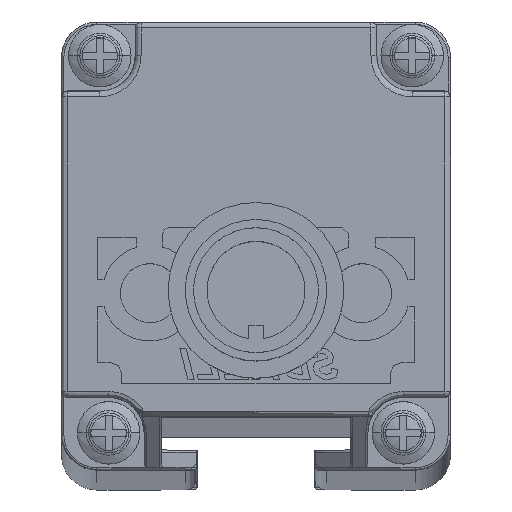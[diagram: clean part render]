
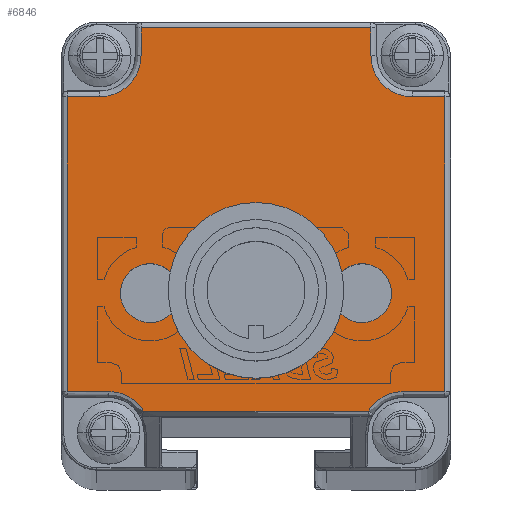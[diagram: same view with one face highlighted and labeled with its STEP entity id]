
A CAD part, top view. The second image highlights one B-rep face of the part: STEP entity #6846.
In plain terms, the highlighted planar face has unit normal (0, 0, 1).
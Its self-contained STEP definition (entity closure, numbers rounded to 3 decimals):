
#2781=CARTESIAN_POINT('',(0.65,-8.054,
845.276));
#2782=DIRECTION('',(0.,0.,1.));
#2783=DIRECTION('',(1.,0.,0.));
#2784=AXIS2_PLACEMENT_3D('',#2781,#2782,#2783);
#2786=CARTESIAN_POINT('',(0.65,-8.054,
845.276));
#2787=DIRECTION('',(0.,0.,1.));
#2788=DIRECTION('',(-1.,0.,0.));
#2789=AXIS2_PLACEMENT_3D('',#2786,#2787,#2788);
#2791=CARTESIAN_POINT('',(9.65,-8.055,845.276));
#2792=DIRECTION('',(0.,0.,1.));
#2793=DIRECTION('',(1.,-0.007,0.));
#2794=AXIS2_PLACEMENT_3D('',#2791,#2792,#2793);
#2796=CARTESIAN_POINT('',(9.65,-8.055,845.276));
#2797=DIRECTION('',(0.,0.,1.));
#2798=DIRECTION('',(-1.,0.007,0.));
#2799=AXIS2_PLACEMENT_3D('',#2796,#2797,#2798);
#2801=CARTESIAN_POINT('',(-8.35,-8.054,
845.276));
#2802=DIRECTION('',(0.,0.,1.));
#2803=DIRECTION('',(1.,0.007,0.));
#2804=AXIS2_PLACEMENT_3D('',#2801,#2802,#2803);
#2806=CARTESIAN_POINT('',(-8.35,-8.054,
845.276));
#2807=DIRECTION('',(0.,0.,1.));
#2808=DIRECTION('',(-1.,-0.007,0.));
#2809=AXIS2_PLACEMENT_3D('',#2806,#2807,#2808);
#2811=CARTESIAN_POINT('',(-11.85,-19.904,
845.276));
#2812=DIRECTION('',(0.,0.,1.));
#2813=DIRECTION('',(0.849,0.528,0.));
#2814=AXIS2_PLACEMENT_3D('',#2811,#2812,#2813);
#2816=CARTESIAN_POINT('',(-12.6,12.094,845.276));
#2817=DIRECTION('',(0.,0.,1.));
#2818=DIRECTION('',(0.,-1.,0.));
#2819=AXIS2_PLACEMENT_3D('',#2816,#2817,#2818);
#2821=CARTESIAN_POINT('',(13.9,12.094,845.276));
#2822=DIRECTION('',(0.,0.,1.));
#2823=DIRECTION('',(-1.,0.,0.));
#2824=AXIS2_PLACEMENT_3D('',#2821,#2822,#2823);
#2826=CARTESIAN_POINT('',(13.15,-19.904,845.276));
#2827=DIRECTION('',(0.,0.,1.));
#2828=DIRECTION('',(0.,1.,0.));
#2829=AXIS2_PLACEMENT_3D('',#2826,#2827,#2828);
#4391=DIRECTION('',(1.,0.,0.));
#4392=VECTOR('',#4391,19.056);
#4393=CARTESIAN_POINT('',(-8.878,-18.056,
845.276));
#4394=LINE('',#4393,#4392);
#4671=DIRECTION('',(1.,0.,0.));
#4672=VECTOR('',#4671,3.5);
#4673=CARTESIAN_POINT('',(13.15,-16.404,845.276));
#4674=LINE('',#4673,#4672);
#5334=DIRECTION('',(0.,1.,0.));
#5335=VECTOR('',#5334,2.35);
#5336=CARTESIAN_POINT('',(10.4,12.094,845.276));
#5337=LINE('',#5336,#5335);
#5357=DIRECTION('',(-1.,0.,0.));
#5358=VECTOR('',#5357,19.5);
#5359=CARTESIAN_POINT('',(10.4,14.444,845.276));
#5360=LINE('',#5359,#5358);
#5381=DIRECTION('',(0.,-1.,0.));
#5382=VECTOR('',#5381,2.35);
#5383=CARTESIAN_POINT('',(-9.1,14.444,845.276));
#5384=LINE('',#5383,#5382);
#5408=DIRECTION('',(-1.,0.,0.));
#5409=VECTOR('',#5408,2.75);
#5410=CARTESIAN_POINT('',(-12.6,8.594,845.276));
#5411=LINE('',#5410,#5409);
#5439=DIRECTION('',(0.,-1.,0.));
#5440=VECTOR('',#5439,24.998);
#5441=CARTESIAN_POINT('',(-15.35,8.594,845.276));
#5442=LINE('',#5441,#5440);
#5463=DIRECTION('',(1.,0.,0.));
#5464=VECTOR('',#5463,3.5);
#5465=CARTESIAN_POINT('',(-15.35,-16.404,
845.276));
#5466=LINE('',#5465,#5464);
#5527=DIRECTION('',(-1.,0.,0.));
#5528=VECTOR('',#5527,2.75);
#5529=CARTESIAN_POINT('',(16.65,8.594,845.276));
#5530=LINE('',#5529,#5528);
#5586=DIRECTION('',(0.,1.,0.));
#5587=VECTOR('',#5586,24.998);
#5588=CARTESIAN_POINT('',(16.65,-16.404,845.276));
#5589=LINE('',#5588,#5587);
#5933=CARTESIAN_POINT('',(12.15,-8.072,845.276));
#5934=VERTEX_POINT('',#5933);
#5935=CARTESIAN_POINT('',(7.15,-8.039,845.276));
#5936=VERTEX_POINT('',#5935);
#5937=CARTESIAN_POINT('',(-8.878,-18.056,
845.276));
#5938=CARTESIAN_POINT('',(-11.85,-16.404,
845.276));
#5939=VERTEX_POINT('',#5937);
#5940=VERTEX_POINT('',#5938);
#5941=CARTESIAN_POINT('',(-15.35,-16.404,
845.276));
#5942=VERTEX_POINT('',#5941);
#5943=CARTESIAN_POINT('',(-15.35,8.594,845.276));
#5944=VERTEX_POINT('',#5943);
#5945=CARTESIAN_POINT('',(-12.6,8.594,845.276));
#5946=VERTEX_POINT('',#5945);
#5947=CARTESIAN_POINT('',(-9.1,12.094,845.276));
#5948=VERTEX_POINT('',#5947);
#5949=CARTESIAN_POINT('',(-9.1,14.444,845.276));
#5950=VERTEX_POINT('',#5949);
#5951=CARTESIAN_POINT('',(10.4,14.444,845.276));
#5952=VERTEX_POINT('',#5951);
#5953=CARTESIAN_POINT('',(10.4,12.094,845.276));
#5954=VERTEX_POINT('',#5953);
#5955=CARTESIAN_POINT('',(13.9,8.594,845.276));
#5956=VERTEX_POINT('',#5955);
#5957=CARTESIAN_POINT('',(16.65,8.594,845.276));
#5958=VERTEX_POINT('',#5957);
#5959=CARTESIAN_POINT('',(16.65,-16.404,845.276));
#5960=VERTEX_POINT('',#5959);
#5961=CARTESIAN_POINT('',(13.15,-16.404,845.276));
#5962=VERTEX_POINT('',#5961);
#5963=CARTESIAN_POINT('',(10.178,-18.056,845.276));
#5964=VERTEX_POINT('',#5963);
#5965=CARTESIAN_POINT('',(-5.85,-8.037,
845.276));
#5966=CARTESIAN_POINT('',(-10.85,-8.07,
845.276));
#5967=VERTEX_POINT('',#5965);
#5968=VERTEX_POINT('',#5966);
#5969=CARTESIAN_POINT('',(3.65,-8.054,845.276));
#5970=CARTESIAN_POINT('',(-2.35,-8.054,
845.276));
#5971=VERTEX_POINT('',#5969);
#5972=VERTEX_POINT('',#5970);
#6795=CARTESIAN_POINT('',(0.65,0.944,
845.276));
#6796=DIRECTION('',(0.,0.,1.));
#6797=DIRECTION('',(1.,0.,0.));
#6798=AXIS2_PLACEMENT_3D('',#6795,#6796,#6797);
#6799=PLANE('',#6798);
#6801=ORIENTED_EDGE('',*,*,#6800,.T.);
#6803=ORIENTED_EDGE('',*,*,#6802,.F.);
#6805=ORIENTED_EDGE('',*,*,#6804,.F.);
#6807=ORIENTED_EDGE('',*,*,#6806,.F.);
#6809=ORIENTED_EDGE('',*,*,#6808,.T.);
#6811=ORIENTED_EDGE('',*,*,#6810,.F.);
#6813=ORIENTED_EDGE('',*,*,#6812,.F.);
#6815=ORIENTED_EDGE('',*,*,#6814,.F.);
#6817=ORIENTED_EDGE('',*,*,#6816,.T.);
#6819=ORIENTED_EDGE('',*,*,#6818,.F.);
#6821=ORIENTED_EDGE('',*,*,#6820,.F.);
#6823=ORIENTED_EDGE('',*,*,#6822,.F.);
#6825=ORIENTED_EDGE('',*,*,#6824,.T.);
#6827=ORIENTED_EDGE('',*,*,#6826,.F.);
#6828=EDGE_LOOP('',(#6801,#6803,#6805,#6807,#6809,#6811,#6813,#6815,#6817,#6819,
#6821,#6823,#6825,#6827));
#6829=FACE_OUTER_BOUND('',#6828,.F.);
#6830=ORIENTED_EDGE('',*,*,#6782,.T.);
#6831=ORIENTED_EDGE('',*,*,#6743,.T.);
#6832=EDGE_LOOP('',(#6830,#6831));
#6833=FACE_BOUND('',#6832,.F.);
#6835=ORIENTED_EDGE('',*,*,#6834,.T.);
#6837=ORIENTED_EDGE('',*,*,#6836,.T.);
#6838=EDGE_LOOP('',(#6835,#6837));
#6839=FACE_BOUND('',#6838,.F.);
#6841=ORIENTED_EDGE('',*,*,#6840,.T.);
#6843=ORIENTED_EDGE('',*,*,#6842,.T.);
#6844=EDGE_LOOP('',(#6841,#6843));
#6845=FACE_BOUND('',#6844,.F.);
#2785=CIRCLE('',#2784,3.);
#2790=CIRCLE('',#2789,3.);
#2795=CIRCLE('',#2794,2.5);
#2800=CIRCLE('',#2799,2.5);
#2805=CIRCLE('',#2804,2.5);
#2810=CIRCLE('',#2809,2.5);
#2815=CIRCLE('',#2814,3.5);
#2820=CIRCLE('',#2819,3.5);
#2825=CIRCLE('',#2824,3.5);
#2830=CIRCLE('',#2829,3.5);
#6743=EDGE_CURVE('',#5936,#5934,#2800,.T.);
#6782=EDGE_CURVE('',#5934,#5936,#2795,.T.);
#6800=EDGE_CURVE('',#5939,#5940,#2815,.T.);
#6802=EDGE_CURVE('',#5942,#5940,#5466,.T.);
#6804=EDGE_CURVE('',#5944,#5942,#5442,.T.);
#6806=EDGE_CURVE('',#5946,#5944,#5411,.T.);
#6808=EDGE_CURVE('',#5946,#5948,#2820,.T.);
#6810=EDGE_CURVE('',#5950,#5948,#5384,.T.);
#6812=EDGE_CURVE('',#5952,#5950,#5360,.T.);
#6814=EDGE_CURVE('',#5954,#5952,#5337,.T.);
#6816=EDGE_CURVE('',#5954,#5956,#2825,.T.);
#6818=EDGE_CURVE('',#5958,#5956,#5530,.T.);
#6820=EDGE_CURVE('',#5960,#5958,#5589,.T.);
#6822=EDGE_CURVE('',#5962,#5960,#4674,.T.);
#6824=EDGE_CURVE('',#5962,#5964,#2830,.T.);
#6826=EDGE_CURVE('',#5939,#5964,#4394,.T.);
#6834=EDGE_CURVE('',#5967,#5968,#2805,.T.);
#6836=EDGE_CURVE('',#5968,#5967,#2810,.T.);
#6840=EDGE_CURVE('',#5971,#5972,#2785,.T.);
#6842=EDGE_CURVE('',#5972,#5971,#2790,.T.);
#6846=ADVANCED_FACE('',(#6829,#6833,#6839,#6845),#6799,.T.);
